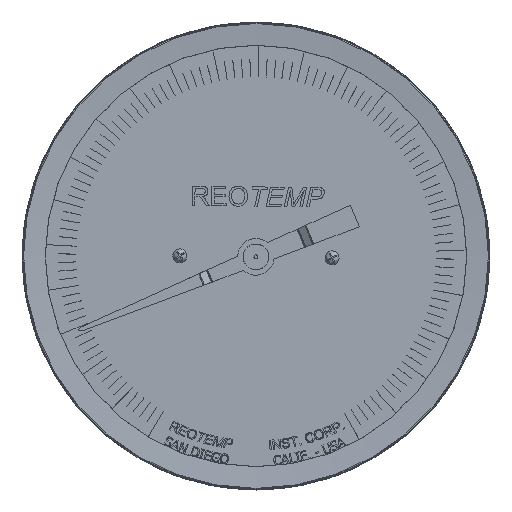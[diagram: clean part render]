
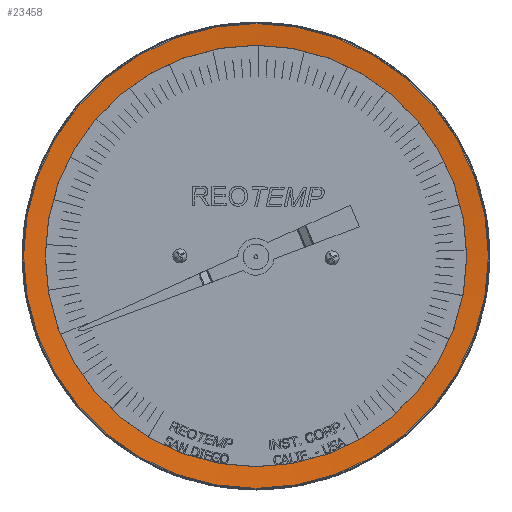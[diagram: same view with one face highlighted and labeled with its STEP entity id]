
A CAD part, top view. The second image highlights one B-rep face of the part: STEP entity #23458.
In plain terms, the highlighted conical face has half-angle 85 degrees and reference radius 60.337 mm.
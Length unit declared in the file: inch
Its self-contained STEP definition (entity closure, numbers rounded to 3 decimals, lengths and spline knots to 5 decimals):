
#7349=CONICAL_SURFACE($,#24796,2.37548,85.);
#8426=FACE_BOUND($,#10017,.T.);
#8723=FACE_OUTER_BOUND($,#10016,.T.);
#10016=EDGE_LOOP($,(#17089));
#10017=EDGE_LOOP($,(#17090));
#11509=CIRCLE($,#24795,2.25186);
#11510=CIRCLE($,#24797,2.48369);
#11596=VERTEX_POINT($,#31084);
#11597=VERTEX_POINT($,#31087);
#13776=EDGE_CURVE($,#11596,#11596,#11509,.T.);
#13777=EDGE_CURVE($,#11597,#11597,#11510,.T.);
#17089=ORIENTED_EDGE($,*,*,#13777,.F.);
#17090=ORIENTED_EDGE($,*,*,#13776,.F.);
#23458=ADVANCED_FACE($,(#8723,#8426),#7349,.F.);
#24795=AXIS2_PLACEMENT_3D($,#31085,#26041,#26042);
#24796=AXIS2_PLACEMENT_3D($,#31086,#26043,#26044);
#24797=AXIS2_PLACEMENT_3D($,#31088,#26045,#26046);
#26041=DIRECTION('center_axis',(0.,0.,1.));
#26042=DIRECTION('ref_axis',(-1.,0.,0.));
#26043=DIRECTION('center_axis',(0.,0.,1.));
#26044=DIRECTION('ref_axis',(1.,0.,0.));
#26045=DIRECTION('center_axis',(0.,0.,-1.));
#26046=DIRECTION('ref_axis',(-1.,0.,0.));
#31084=CARTESIAN_POINT('',(7.97497,0.77903,7.98376));
#31085=CARTESIAN_POINT('Origin',(5.7231,0.77903,7.98376));
#31086=CARTESIAN_POINT('Origin',(5.7231,0.77903,7.99457));
#31087=CARTESIAN_POINT('',(8.20679,0.77903,8.00404));
#31088=CARTESIAN_POINT('Origin',(5.7231,0.77903,8.00404));
